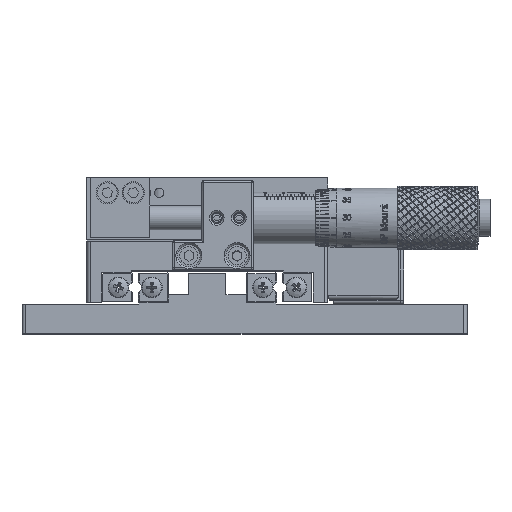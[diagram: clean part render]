
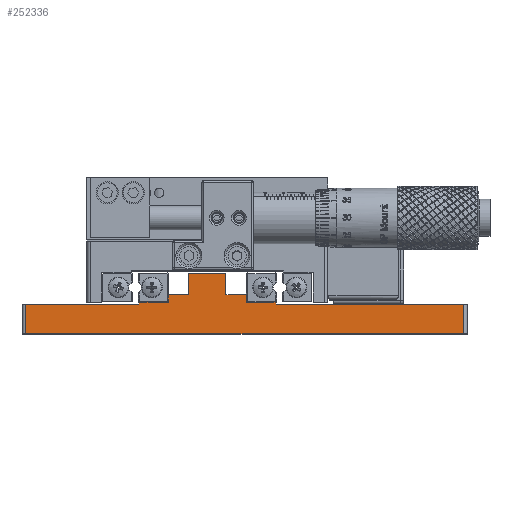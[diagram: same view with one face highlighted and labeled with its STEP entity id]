
A CAD part, top view. The second image highlights one B-rep face of the part: STEP entity #252336.
In plain terms, the highlighted planar face has unit normal (0, 0, 1).
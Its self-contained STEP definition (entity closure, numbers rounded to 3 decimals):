
#46078 = EDGE_CURVE ( 'NONE', #92127, #92251, #195107, .T. ) ;
#46082 = EDGE_CURVE ( 'NONE', #92127, #92208, #195083, .T. ) ;
#46088 = EDGE_CURVE ( 'NONE', #92187, #92190, #195118, .T. ) ;
#46093 = EDGE_CURVE ( 'NONE', #92129, #92221, #195110, .T. ) ;
#46097 = EDGE_CURVE ( 'NONE', #92251, #92307, #195124, .T. ) ;
#46101 = EDGE_CURVE ( 'NONE', #92307, #92221, #195141, .T. ) ;
#46152 = EDGE_CURVE ( 'NONE', #92160, #92129, #195162, .T. ) ;
#46161 = EDGE_CURVE ( 'NONE', #92142, #92160, #195208, .T. ) ;
#46179 = EDGE_CURVE ( 'NONE', #92151, #92142, #195231, .T. ) ;
#46191 = EDGE_CURVE ( 'NONE', #92153, #92151, #195254, .T. ) ;
#46208 = EDGE_CURVE ( 'NONE', #92178, #92153, #195279, .T. ) ;
#46217 = EDGE_CURVE ( 'NONE', #92166, #92178, #195308, .T. ) ;
#46256 = EDGE_CURVE ( 'NONE', #92194, #92166, #195333, .T. ) ;
#46270 = EDGE_CURVE ( 'NONE', #92176, #92194, #195357, .T. ) ;
#46288 = EDGE_CURVE ( 'NONE', #92190, #92176, #195399, .T. ) ;
#46308 = EDGE_CURVE ( 'NONE', #92208, #92187, #195424, .T. ) ;
#92127 = VERTEX_POINT ( 'NONE', #344551 ) ;
#92129 = VERTEX_POINT ( 'NONE', #344558 ) ;
#92142 = VERTEX_POINT ( 'NONE', #344812 ) ;
#92151 = VERTEX_POINT ( 'NONE', #344817 ) ;
#92153 = VERTEX_POINT ( 'NONE', #344907 ) ;
#92160 = VERTEX_POINT ( 'NONE', #344886 ) ;
#92166 = VERTEX_POINT ( 'NONE', #344957 ) ;
#92176 = VERTEX_POINT ( 'NONE', #345127 ) ;
#92178 = VERTEX_POINT ( 'NONE', #345131 ) ;
#92187 = VERTEX_POINT ( 'NONE', #345170 ) ;
#92190 = VERTEX_POINT ( 'NONE', #345162 ) ;
#92194 = VERTEX_POINT ( 'NONE', #345182 ) ;
#92208 = VERTEX_POINT ( 'NONE', #345336 ) ;
#92221 = VERTEX_POINT ( 'NONE', #345438 ) ;
#92251 = VERTEX_POINT ( 'NONE', #345738 ) ;
#92307 = VERTEX_POINT ( 'NONE', #346135 ) ;
#195083 = LINE ( 'NONE', #210573, #195121 ) ;
#195107 = LINE ( 'NONE', #210541, #195114 ) ;
#195110 = LINE ( 'NONE', #210568, #195137 ) ;
#195114 = VECTOR ( 'NONE', #210550, 1000. ) ;
#195118 = LINE ( 'NONE', #210610, #195128 ) ;
#195121 = VECTOR ( 'NONE', #210598, 1000. ) ;
#195124 = LINE ( 'NONE', #210593, #195143 ) ;
#195128 = VECTOR ( 'NONE', #210618, 1000. ) ;
#195137 = VECTOR ( 'NONE', #210621, 1000. ) ;
#195141 = LINE ( 'NONE', #210640, #195151 ) ;
#195143 = VECTOR ( 'NONE', #210628, 1000. ) ;
#195151 = VECTOR ( 'NONE', #210649, 1000. ) ;
#195162 = LINE ( 'NONE', #210798, #195218 ) ;
#195208 = LINE ( 'NONE', #210790, #195241 ) ;
#195218 = VECTOR ( 'NONE', #210819, 1000. ) ;
#195231 = LINE ( 'NONE', #210937, #195261 ) ;
#195241 = VECTOR ( 'NONE', #210856, 1000. ) ;
#195254 = LINE ( 'NONE', #210893, #195291 ) ;
#195261 = VECTOR ( 'NONE', #210885, 1000. ) ;
#195279 = LINE ( 'NONE', #211055, #195316 ) ;
#195291 = VECTOR ( 'NONE', #210973, 1000. ) ;
#195308 = LINE ( 'NONE', #211009, #195344 ) ;
#195316 = VECTOR ( 'NONE', #211001, 1000. ) ;
#195333 = LINE ( 'NONE', #211252, #195379 ) ;
#195344 = VECTOR ( 'NONE', #211091, 1000. ) ;
#195357 = LINE ( 'NONE', #211208, #195410 ) ;
#195379 = VECTOR ( 'NONE', #211184, 1000. ) ;
#195399 = LINE ( 'NONE', #211370, #195432 ) ;
#195410 = VECTOR ( 'NONE', #211289, 1000. ) ;
#195424 = LINE ( 'NONE', #211326, #195466 ) ;
#195432 = VECTOR ( 'NONE', #211317, 1000. ) ;
#195466 = VECTOR ( 'NONE', #206272, 1000. ) ;
#206272 = DIRECTION ( 'NONE',  ( 0., 1., 0. ) ) ;
#210541 = CARTESIAN_POINT ( 'NONE',  ( -126.996, -3.388, -14.681 ) ) ;
#210550 = DIRECTION ( 'NONE',  ( 0., -1., 0. ) ) ;
#210568 = CARTESIAN_POINT ( 'NONE',  ( -67.996, -3.488, -14.681 ) ) ;
#210573 = CARTESIAN_POINT ( 'NONE',  ( -67.996, -3.488, -14.681 ) ) ;
#210593 = CARTESIAN_POINT ( 'NONE',  ( -67.996, -11.488, -14.681 ) ) ;
#210598 = DIRECTION ( 'NONE',  ( 1., 0., 0. ) ) ;
#210610 = CARTESIAN_POINT ( 'NONE',  ( -67.996, -2.988, -14.681 ) ) ;
#210618 = DIRECTION ( 'NONE',  ( 1., 0., 0. ) ) ;
#210621 = DIRECTION ( 'NONE',  ( 1., 0., 0. ) ) ;
#210628 = DIRECTION ( 'NONE',  ( 1., 0., 0. ) ) ;
#210640 = CARTESIAN_POINT ( 'NONE',  ( -8.996, -3.488, -14.681 ) ) ;
#210649 = DIRECTION ( 'NONE',  ( 0., 1., 0. ) ) ;
#210790 = CARTESIAN_POINT ( 'NONE',  ( -67.996, -2.988, -14.681 ) ) ;
#210798 = CARTESIAN_POINT ( 'NONE',  ( -59.496, -3.388, -14.681 ) ) ;
#210819 = DIRECTION ( 'NONE',  ( 0., -1., 0. ) ) ;
#210856 = DIRECTION ( 'NONE',  ( 1., 0., 0. ) ) ;
#210885 = DIRECTION ( 'NONE',  ( 0., -1., 0. ) ) ;
#210893 = CARTESIAN_POINT ( 'NONE',  ( -67.996, -0.988, -14.681 ) ) ;
#210937 = CARTESIAN_POINT ( 'NONE',  ( -67.496, -3.388, -14.681 ) ) ;
#210973 = DIRECTION ( 'NONE',  ( 1., 0., 0. ) ) ;
#211001 = DIRECTION ( 'NONE',  ( 0., -1., 0. ) ) ;
#211009 = CARTESIAN_POINT ( 'NONE',  ( -67.996, 4.712, -14.681 ) ) ;
#211055 = CARTESIAN_POINT ( 'NONE',  ( -72.996, -3.388, -14.681 ) ) ;
#211091 = DIRECTION ( 'NONE',  ( 1., 0., 0. ) ) ;
#211184 = DIRECTION ( 'NONE',  ( 0., 1., 0. ) ) ;
#211208 = CARTESIAN_POINT ( 'NONE',  ( -67.996, -0.988, -14.681 ) ) ;
#211252 = CARTESIAN_POINT ( 'NONE',  ( -82.996, -3.388, -14.681 ) ) ;
#211289 = DIRECTION ( 'NONE',  ( 1., 0., 0. ) ) ;
#211317 = DIRECTION ( 'NONE',  ( 0., 1., 0. ) ) ;
#211326 = CARTESIAN_POINT ( 'NONE',  ( -96.496, -3.388, -14.681 ) ) ;
#211370 = CARTESIAN_POINT ( 'NONE',  ( -88.496, -3.388, -14.681 ) ) ;
#252336 = ADVANCED_FACE ( 'NONE', ( #345831 ), #318276, .T. ) ;
#318268 = CARTESIAN_POINT ( 'NONE',  ( -67.996, -3.388, -14.681 ) ) ;
#318276 = PLANE ( 'NONE',  #339671 ) ;
#318287 = DIRECTION ( 'NONE',  ( 0., 0., 1. ) ) ;
#318291 = DIRECTION ( 'NONE',  ( 1., 0., 0. ) ) ;
#320816 = ORIENTED_EDGE ( 'NONE', *, *, #46097, .T. ) ;
#320820 = ORIENTED_EDGE ( 'NONE', *, *, #46101, .T. ) ;
#320825 = ORIENTED_EDGE ( 'NONE', *, *, #46093, .F. ) ;
#320830 = ORIENTED_EDGE ( 'NONE', *, *, #46152, .F. ) ;
#320835 = ORIENTED_EDGE ( 'NONE', *, *, #46161, .F. ) ;
#320840 = ORIENTED_EDGE ( 'NONE', *, *, #46179, .F. ) ;
#320844 = ORIENTED_EDGE ( 'NONE', *, *, #46191, .F. ) ;
#320848 = ORIENTED_EDGE ( 'NONE', *, *, #46208, .F. ) ;
#320853 = ORIENTED_EDGE ( 'NONE', *, *, #46217, .F. ) ;
#320858 = ORIENTED_EDGE ( 'NONE', *, *, #46256, .F. ) ;
#320862 = ORIENTED_EDGE ( 'NONE', *, *, #46270, .F. ) ;
#320867 = ORIENTED_EDGE ( 'NONE', *, *, #46288, .F. ) ;
#320872 = ORIENTED_EDGE ( 'NONE', *, *, #46088, .F. ) ;
#320877 = ORIENTED_EDGE ( 'NONE', *, *, #46308, .F. ) ;
#320881 = ORIENTED_EDGE ( 'NONE', *, *, #46082, .F. ) ;
#320887 = ORIENTED_EDGE ( 'NONE', *, *, #46078, .T. ) ;
#323586 = EDGE_LOOP ( 'NONE', ( #320816, #320820, #320825, #320830, #320835, #320840, #320844, #320848, #320853, #320858, #320862, #320867, #320872, #320877, #320881, #320887 ) ) ;
#339671 = AXIS2_PLACEMENT_3D ( 'NONE', #318268, #318287, #318291 ) ;
#344551 = CARTESIAN_POINT ( 'NONE',  ( -126.996, -3.488, -14.681 ) ) ;
#344558 = CARTESIAN_POINT ( 'NONE',  ( -59.496, -3.488, -14.681 ) ) ;
#344812 = CARTESIAN_POINT ( 'NONE',  ( -67.496, -2.988, -14.681 ) ) ;
#344817 = CARTESIAN_POINT ( 'NONE',  ( -67.496, -0.988, -14.681 ) ) ;
#344886 = CARTESIAN_POINT ( 'NONE',  ( -59.496, -2.988, -14.681 ) ) ;
#344907 = CARTESIAN_POINT ( 'NONE',  ( -72.996, -0.988, -14.681 ) ) ;
#344957 = CARTESIAN_POINT ( 'NONE',  ( -82.996, 4.712, -14.681 ) ) ;
#345127 = CARTESIAN_POINT ( 'NONE',  ( -88.496, -0.988, -14.681 ) ) ;
#345131 = CARTESIAN_POINT ( 'NONE',  ( -72.996, 4.712, -14.681 ) ) ;
#345162 = CARTESIAN_POINT ( 'NONE',  ( -88.496, -2.988, -14.681 ) ) ;
#345170 = CARTESIAN_POINT ( 'NONE',  ( -96.496, -2.988, -14.681 ) ) ;
#345182 = CARTESIAN_POINT ( 'NONE',  ( -82.996, -0.988, -14.681 ) ) ;
#345336 = CARTESIAN_POINT ( 'NONE',  ( -96.496, -3.488, -14.681 ) ) ;
#345438 = CARTESIAN_POINT ( 'NONE',  ( -8.996, -3.488, -14.681 ) ) ;
#345738 = CARTESIAN_POINT ( 'NONE',  ( -126.996, -11.488, -14.681 ) ) ;
#345831 = FACE_OUTER_BOUND ( 'NONE', #323586, .T. ) ;
#346135 = CARTESIAN_POINT ( 'NONE',  ( -8.996, -11.488, -14.681 ) ) ;
